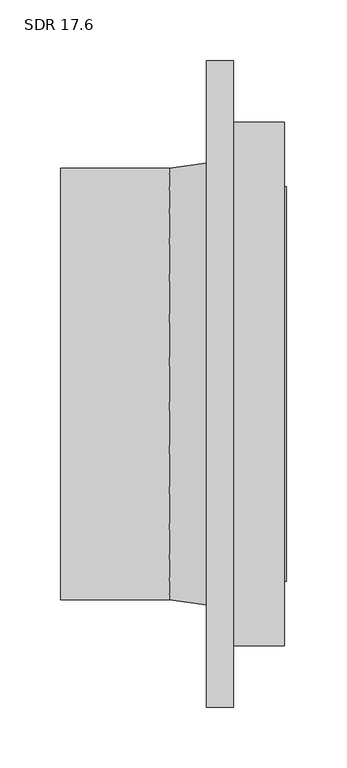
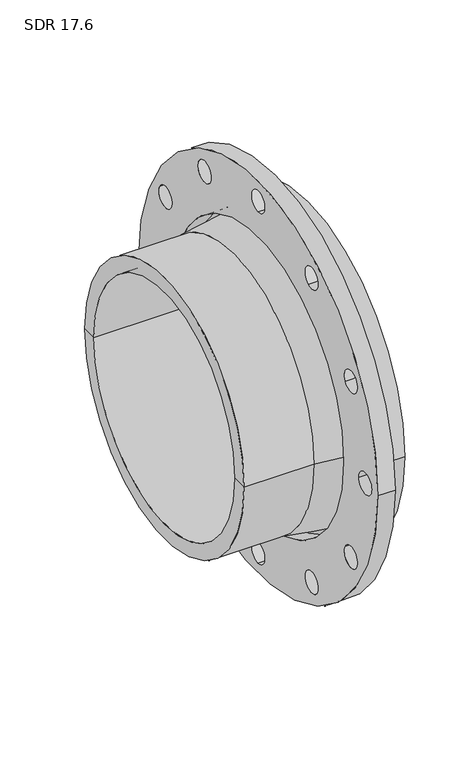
"""IFC4 building model written with IfcOpenShell, lengths in millimetres: valve geometry, Aquatherm - Flange Adapter Butt-Weld : SDR 17.6."""

from ifc_helpers import new_model, si_unit, point, frame, frame_2d, origin, origin_2d, place, context, project, spatial, polyline, circle_curve, trimmed, segment, composite_curve, outline, extrude, source, transform, mapped, element, save
from ifc_brep_helpers import plane_surface, cylinder_surface, revolved_surface, advanced_brep


def sdr_17_6_e48cafa8(model_context):
    return source(origin(), model_context, "Body", "SolidModel", [
        extrude(outline(composite_curve([segment(trimmed(circle_curve(origin_2d(), 266.7), [point((-266.7, 0.0))], [point((266.7, 0.0))], False, "CARTESIAN"), True, "CONTINUOUS"), segment(trimmed(circle_curve(origin_2d(), 266.7), [point((266.7, 0.0))], [point((-266.7, 0.0))], False, "CARTESIAN"), True, "CONTINUOUS")], self_intersect=False), holes=[composite_curve([segment(trimmed(circle_curve(origin_2d(), 190.5), [point((-190.5, 0.0))], [point((190.5, 0.0))], True, "CARTESIAN"), True, "CONTINUOUS"), segment(trimmed(circle_curve(origin_2d(), 190.5), [point((190.5, 0.0))], [point((-190.5, 0.0))], True, "CARTESIAN"), True, "CONTINUOUS")], self_intersect=False), composite_curve([segment(trimmed(circle_curve(frame_2d((238.76, 0.0)), 14.351), [point((224.409, 0.0))], [point((253.111, 0.0))], True, "CARTESIAN"), True, "CONTINUOUS"), segment(trimmed(circle_curve(frame_2d((238.76, 0.0)), 14.351), [point((253.111, 0.0))], [point((224.409, 0.0))], True, "CARTESIAN"), True, "CONTINUOUS")], self_intersect=False), composite_curve([segment(trimmed(circle_curve(frame_2d((206.7722254, -119.38)), 14.351), [point((194.3438948, -112.2045))], [point((219.200556, -126.5555))], True, "CARTESIAN"), True, "CONTINUOUS"), segment(trimmed(circle_curve(frame_2d((206.7722254, -119.38)), 14.351), [point((219.200556, -126.5555))], [point((194.3438948, -112.2045))], True, "CARTESIAN"), True, "CONTINUOUS")], self_intersect=False), composite_curve([segment(trimmed(circle_curve(frame_2d((206.7722254, 119.38)), 14.351), [point((194.3438948, 112.2045))], [point((219.200556, 126.5555))], True, "CARTESIAN"), True, "CONTINUOUS"), segment(trimmed(circle_curve(frame_2d((206.7722254, 119.38)), 14.351), [point((219.200556, 126.5555))], [point((194.3438948, 112.2045))], True, "CARTESIAN"), True, "CONTINUOUS")], self_intersect=False), composite_curve([segment(trimmed(circle_curve(frame_2d((119.38, 206.7722254)), 14.351), [point((112.2045, 194.3438948))], [point((126.5555, 219.200556))], True, "CARTESIAN"), True, "CONTINUOUS"), segment(trimmed(circle_curve(frame_2d((119.38, 206.7722254)), 14.351), [point((126.5555, 219.200556))], [point((112.2045, 194.3438948))], True, "CARTESIAN"), True, "CONTINUOUS")], self_intersect=False), composite_curve([segment(trimmed(circle_curve(frame_2d((0.0, 238.76)), 14.351), [point((0.0, 224.409))], [point((0.0, 253.111))], True, "CARTESIAN"), True, "CONTINUOUS"), segment(trimmed(circle_curve(frame_2d((0.0, 238.76)), 14.351), [point((0.0, 253.111))], [point((0.0, 224.409))], True, "CARTESIAN"), True, "CONTINUOUS")], self_intersect=False), composite_curve([segment(trimmed(circle_curve(frame_2d((-119.38, 206.7722254)), 14.351), [point((-112.2045, 194.3438948))], [point((-126.5555, 219.200556))], True, "CARTESIAN"), True, "CONTINUOUS"), segment(trimmed(circle_curve(frame_2d((-119.38, 206.7722254)), 14.351), [point((-126.5555, 219.200556))], [point((-112.2045, 194.3438948))], True, "CARTESIAN"), True, "CONTINUOUS")], self_intersect=False), composite_curve([segment(trimmed(circle_curve(frame_2d((-206.7722254, 119.38)), 14.351), [point((-194.3438948, 112.2045))], [point((-219.200556, 126.5555))], True, "CARTESIAN"), True, "CONTINUOUS"), segment(trimmed(circle_curve(frame_2d((-206.7722254, 119.38)), 14.351), [point((-219.200556, 126.5555))], [point((-194.3438948, 112.2045))], True, "CARTESIAN"), True, "CONTINUOUS")], self_intersect=False), composite_curve([segment(trimmed(circle_curve(frame_2d((-238.76, 0.0)), 14.351), [point((-224.409, 0.0))], [point((-253.111, 0.0))], True, "CARTESIAN"), True, "CONTINUOUS"), segment(trimmed(circle_curve(frame_2d((-238.76, 0.0)), 14.351), [point((-253.111, 0.0))], [point((-224.409, 0.0))], True, "CARTESIAN"), True, "CONTINUOUS")], self_intersect=False), composite_curve([segment(trimmed(circle_curve(frame_2d((-206.7722254, -119.38)), 14.351), [point((-194.3438948, -112.2045))], [point((-219.200556, -126.5555))], True, "CARTESIAN"), True, "CONTINUOUS"), segment(trimmed(circle_curve(frame_2d((-206.7722254, -119.38)), 14.351), [point((-219.200556, -126.5555))], [point((-194.3438948, -112.2045))], True, "CARTESIAN"), True, "CONTINUOUS")], self_intersect=False), composite_curve([segment(trimmed(circle_curve(frame_2d((-119.38, -206.7722254)), 14.351), [point((-112.2045, -194.3438948))], [point((-126.5555, -219.200556))], True, "CARTESIAN"), True, "CONTINUOUS"), segment(trimmed(circle_curve(frame_2d((-119.38, -206.7722254)), 14.351), [point((-126.5555, -219.200556))], [point((-112.2045, -194.3438948))], True, "CARTESIAN"), True, "CONTINUOUS")], self_intersect=False), composite_curve([segment(trimmed(circle_curve(frame_2d((0.0, -238.76)), 14.351), [point((0.0, -224.409))], [point((0.0, -253.111))], True, "CARTESIAN"), True, "CONTINUOUS"), segment(trimmed(circle_curve(frame_2d((0.0, -238.76)), 14.351), [point((0.0, -253.111))], [point((0.0, -224.409))], True, "CARTESIAN"), True, "CONTINUOUS")], self_intersect=False), composite_curve([segment(trimmed(circle_curve(frame_2d((119.38, -206.7722254)), 14.351), [point((112.2045, -194.3438948))], [point((126.5555, -219.200556))], True, "CARTESIAN"), True, "CONTINUOUS"), segment(trimmed(circle_curve(frame_2d((119.38, -206.7722254)), 14.351), [point((126.5555, -219.200556))], [point((112.2045, -194.3438948))], True, "CARTESIAN"), True, "CONTINUOUS")], self_intersect=False)]), frame((-22.352, 0.0, 0.0), z_axis=(1.0, 0.0, 0.0), x_axis=(0.0, 1.0, 0.0)), (0.0, 0.0, 1.0), 22.352),
        advanced_brep(
        [(41.91, 215.9, 0.0), (41.91, -215.9, 0.0), (0.0, -215.9, 0.0), (0.0, 215.9, 0.0), (43.4975, 157.734, 0.0), (43.4975, -157.734, 0.0), (43.4975, -162.814, 0.0), (43.4975, 162.814, 0.0), (-143.002, 157.734, 0.0), (-143.002, -157.734, 0.0), (-143.002, 177.8, 0.0), (-143.002, -177.8, 0.0), (-53.086, 177.8, 0.0), (-53.086, -177.8, 0.0), (0.0, -185.42, 0.0), (0.0, 185.42, 0.0), (41.91, 162.814, 0.0), (41.91, -162.814, 0.0)],
        [
            (0, 1, circle_curve(frame((41.91, 0.0, 0.0), z_axis=(-1.0, 0.0, 0.0), x_axis=(0.0, -1.0, 0.0)), 215.9)),
            (1, 2),
            (2, 3, circle_curve(frame((0.0, 0.0, 0.0), z_axis=(1.0, 0.0, 0.0), x_axis=(0.0, -1.0, 0.0)), 215.9)),
            (3, 0),
            (1, 0, circle_curve(frame((41.91, 0.0, 0.0), z_axis=(-1.0, 0.0, 0.0), x_axis=(0.0, -1.0, 0.0)), 215.9)),
            (3, 2, circle_curve(frame((0.0, 0.0, 0.0), z_axis=(1.0, 0.0, 0.0), x_axis=(0.0, -1.0, 0.0)), 215.9)),
            (4, 5, circle_curve(frame((43.4975, 0.0, 0.0), z_axis=(-1.0, 0.0, 0.0), x_axis=(0.0, -1.0, 0.0)), 157.734)),
            (5, 6),
            (6, 7, circle_curve(frame((43.4975, 0.0, 0.0), z_axis=(1.0, 0.0, 0.0), x_axis=(0.0, -1.0, 0.0)), 162.814)),
            (7, 4),
            (5, 4, circle_curve(frame((43.4975, 0.0, 0.0), z_axis=(-1.0, 0.0, 0.0), x_axis=(0.0, -1.0, 0.0)), 157.734)),
            (7, 6, circle_curve(frame((43.4975, 0.0, 0.0), z_axis=(1.0, 0.0, 0.0), x_axis=(0.0, -1.0, 0.0)), 162.814)),
            (8, 9, circle_curve(frame((-143.002, 0.0, 0.0), z_axis=(-1.0, 0.0, 0.0), x_axis=(0.0, -1.0, 0.0)), 157.734)),
            (9, 5),
            (4, 8),
            (9, 8, circle_curve(frame((-143.002, 0.0, 0.0), z_axis=(-1.0, 0.0, 0.0), x_axis=(0.0, -1.0, 0.0)), 157.734)),
            (10, 11, circle_curve(frame((-143.002, 0.0, 0.0), z_axis=(-1.0, 0.0, 0.0), x_axis=(0.0, -1.0, 0.0)), 177.8)),
            (11, 9),
            (8, 10),
            (11, 10, circle_curve(frame((-143.002, 0.0, 0.0), z_axis=(-1.0, 0.0, 0.0), x_axis=(0.0, -1.0, 0.0)), 177.8)),
            (12, 13, circle_curve(frame((-53.086, 0.0, 0.0), z_axis=(-1.0, 0.0, 0.0), x_axis=(0.0, -1.0, 0.0)), 177.8)),
            (13, 11),
            (10, 12),
            (13, 12, circle_curve(frame((-53.086, 0.0, 0.0), z_axis=(-1.0, 0.0, 0.0), x_axis=(0.0, -1.0, 0.0)), 177.8)),
            (2, 14),
            (14, 15, circle_curve(frame((0.0, 0.0, 0.0), z_axis=(1.0, 0.0, 0.0), x_axis=(0.0, -1.0, 0.0)), 185.42)),
            (15, 3),
            (15, 14, circle_curve(frame((0.0, 0.0, 0.0), z_axis=(1.0, 0.0, 0.0), x_axis=(0.0, -1.0, 0.0)), 185.42)),
            (16, 17, circle_curve(frame((41.91, 0.0, 0.0), z_axis=(-1.0, 0.0, 0.0), x_axis=(0.0, -1.0, 0.0)), 162.814)),
            (17, 1),
            (0, 16),
            (17, 16, circle_curve(frame((41.91, 0.0, 0.0), z_axis=(-1.0, 0.0, 0.0), x_axis=(0.0, -1.0, 0.0)), 162.814)),
            (6, 17),
            (16, 7),
            (14, 13),
            (12, 15),
        ],
        [
            cylinder_surface(frame((1482.5489321, 0.0, 0.0), z_axis=(1.0, 0.0, 0.0), x_axis=(0.0, -1.0, 0.0)), 215.9),
            plane_surface(frame((43.4975, 0.0, 0.0), z_axis=(1.0, 0.0, 0.0), x_axis=(0.0, -1.0, 0.0))),
            revolved_surface(polyline([(43.497499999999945, -157.734, 0.0), (-143.00199999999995, -157.734, 0.0)]), (1482.5489321, 0.0, 0.0), (1.0, 0.0, 0.0)),
            plane_surface(frame((-143.002, 0.0, 0.0), z_axis=(-1.0, 0.0, 0.0), x_axis=(0.0, -1.0, 0.0))),
            cylinder_surface(frame((1482.5489321, 0.0, 0.0), z_axis=(1.0, 0.0, 0.0), x_axis=(0.0, -1.0, 0.0)), 177.8),
            plane_surface(frame((0.0, 0.0, 0.0), z_axis=(-1.0, 0.0, 0.0), x_axis=(0.0, -1.0, 0.0))),
            plane_surface(frame((41.91, 0.0, 0.0), z_axis=(1.0, 0.0, 0.0), x_axis=(0.0, -1.0, 0.0))),
            cylinder_surface(frame((1482.5489321, 0.0, 0.0), z_axis=(1.0, 0.0, 0.0), x_axis=(0.0, -1.0, 0.0)), 162.814),
            revolved_surface(polyline([(-53.086, -177.8, 0.0), (0.0, -185.42, 0.0)]), (1482.5489321, 0.0, 0.0), (1.0, 0.0, 0.0)),
        ],
        [
            (0, [[1, 2, 3, 4]]),
            (0, [[5, -4, 6, -2]]),
            (1, [[7, 8, 9, 10]]),
            (1, [[11, -10, 12, -8]]),
            (2, [[13, 14, -7, 15]]),
            (2, [[16, -15, -11, -14]]),
            (3, [[17, 18, -13, 19]]),
            (3, [[20, -19, -16, -18]]),
            (4, [[21, 22, -17, 23]]),
            (4, [[24, -23, -20, -22]]),
            (5, [[-3, 25, 26, 27]]),
            (5, [[-6, -27, 28, -25]]),
            (6, [[29, 30, -1, 31]]),
            (6, [[32, -31, -5, -30]]),
            (7, [[-9, 33, -29, 34]]),
            (7, [[-12, -34, -32, -33]]),
            (8, [[-26, 35, -21, 36]]),
            (8, [[-28, -36, -24, -35]]),
        ],
    ),
    ])


if __name__ == "__main__":
    model = new_model("IFC4")
    model_context = context("Model", 3, world=origin())
    ifc_project = project(units=[si_unit("LENGTHUNIT", "METRE", prefix="MILLI")], contexts=[model_context])
    site = spatial("IfcSite", under=ifc_project)
    building = spatial("IfcBuilding", under=site)
    placement = place(None, origin())
    sdr_17_6_shape = sdr_17_6_e48cafa8(model_context)
    element("IfcValve", 1, ObjectType="Aquatherm - Flange Adapter Butt-Weld : SDR 17.6", at=placement, inside=building, context=model_context, shape_type="MappedRepresentation", body=[
        mapped(sdr_17_6_shape, transform((0.0, 0.0, 0.0), x_axis=(1.0, 0.0, 0.0), y_axis=(0.0, 1.0, 0.0), z_axis=(0.0, 0.0, 1.0))),
    ])
    save(model, "model.ifc")
